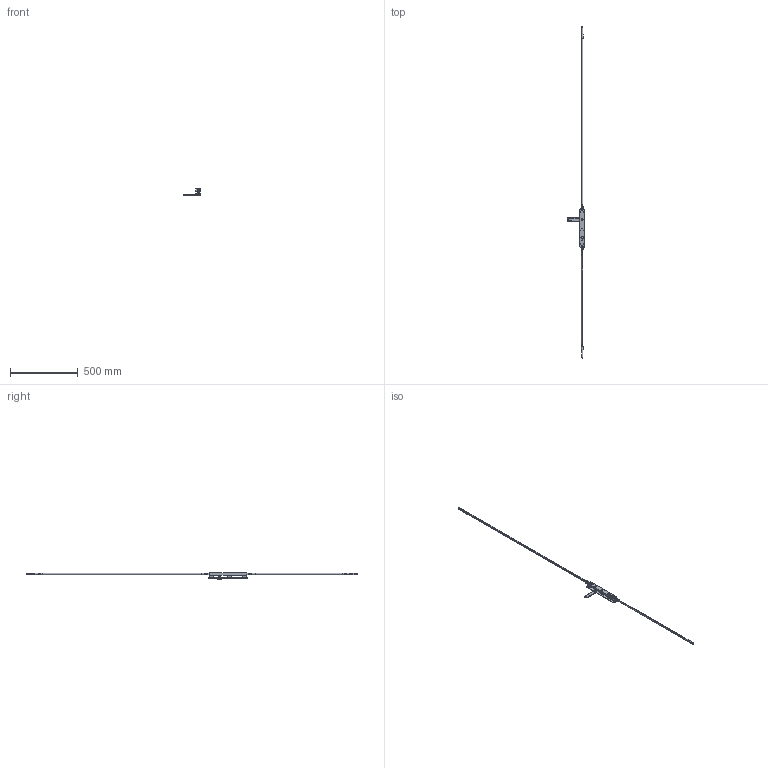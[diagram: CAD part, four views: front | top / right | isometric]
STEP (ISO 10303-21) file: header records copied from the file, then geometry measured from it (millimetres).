
FILE_DESCRIPTION (( 'STEP AP214' ), '1' );
FILE_NAME ('TPL-H-APC-102-B 17Oct2024.STEP', '2024-10-17T04:30:28', ( '' ), ( '' ), 'SwSTEP 2.0', 'SolidWorks 2023', '' );
FILE_SCHEMA (( 'AUTOMOTIVE_DESIGN' ));
Length unit declared in the file: millimetre
Products named in the file (16): Copy of TPL-H-APC-516 04Oct2024^TPL-H-APC-603 16Oct2024; Copy of LKC-585 Rotator body zinc^Copy of TPGen2 handle non-keyed long zinc - simplified_TPL-H-APC-603 16Oct2024; Copy of TPGen2 handle non-keyed long zinc - simplified^TPL-H-APC-603 16Oct2024_Right; Copy of LKC-583 Escutcheon plate unkeyed 285mm long zinc - simplified^Copy of TPGen2 handle non-keyed long zinc - simplified_TPL-H-APC-603 16Oct2024; TPL-H-APC-102-B 17Oct2024; Copy of TPLGen2 push rod - simplified^Copy of TPLGen2 lock body keyed assembly_TPL-H-APC-603 16Oct2024_Female thread M10; Copy of LKC-584 Pivot body zinc - simplified^Copy of TPGen2 handle non-keyed long zinc - simplified_TPL-H-APC-603 16Oct2024; Copy of LKC-586 Spindle square 8mm with M4 hole^Copy of TPGen2 handle non-keyed long zinc - simplified_TPL-H-APC-603 16Oct2024_37mm; Copy of TPL-H-APC-517 04Oct2024^TPL-H-APC-603 16Oct2024; Copy of LKC-505 Swing handle zinc - simplified^Copy of TPGen2 handle non-keyed long zinc - simplified_TPL-H-APC-603 16Oct2024; Copy of LKC-540 Transmission rod aluminium system TPLGen2^TPL-H-APC-603 16Oct2024_2885mm; Copy of LKC-532 Rod connector - simplified^TPL-H-APC-603 16Oct2024; Copy of TPLGen2 lock body keyed^Copy of TPLGen2 lock body keyed assembly_TPL-H-APC-603 16Oct2024_Left; Copy of TPLGen2 lock body keyed assembly^TPL-H-APC-603 16Oct2024_Bolts retracted - left; Copy of LKC-576 Bolt adaptor - simplified^TPL-H-APC-603 16Oct2024; Copy (2) of LKC-540 Transmission rod aluminium system TPLGen2^TPL-H-APC-603 16Oct2024_2885mm
Assembly tree (21 placements, depth 3):
  TPL-H-APC-102-B 17Oct2024
    Copy of TPLGen2 lock body keyed assembly^TPL-H-APC-603 16Oct2024_Bolts retracted - left
      Copy of TPLGen2 lock body keyed^Copy of TPLGen2 lock body keyed assembly_TPL-H-APC-603 16Oct2024_Left
      Copy of TPLGen2 push rod - simplified^Copy of TPLGen2 lock body keyed assembly_TPL-H-APC-603 16Oct2024_Female thread M10  x2
    Copy of TPGen2 handle non-keyed long zinc - simplified^TPL-H-APC-603 16Oct2024_Right
      Copy of LKC-583 Escutcheon plate unkeyed 285mm long zinc - simplified^Copy of TPGen2 handle non-keyed long zinc - simplified_TPL-H-APC-603 16Oct2024
      Copy of LKC-505 Swing handle zinc - simplified^Copy of TPGen2 handle non-keyed long zinc - simplified_TPL-H-APC-603 16Oct2024
      Copy of LKC-585 Rotator body zinc^Copy of TPGen2 handle non-keyed long zinc - simplified_TPL-H-APC-603 16Oct2024
      Copy of LKC-586 Spindle square 8mm with M4 hole^Copy of TPGen2 handle non-keyed long zinc - simplified_TPL-H-APC-603 16Oct2024_37mm
      Copy of LKC-584 Pivot body zinc - simplified^Copy of TPGen2 handle non-keyed long zinc - simplified_TPL-H-APC-603 16Oct2024
    Copy of LKC-532 Rod connector - simplified^TPL-H-APC-603 16Oct2024  x2
    Copy of LKC-540 Transmission rod aluminium system TPLGen2^TPL-H-APC-603 16Oct2024_2885mm
    Copy (2) of LKC-540 Transmission rod aluminium system TPLGen2^TPL-H-APC-603 16Oct2024_2885mm
    Copy of LKC-576 Bolt adaptor - simplified^TPL-H-APC-603 16Oct2024  x2
    Copy of TPL-H-APC-517 04Oct2024^TPL-H-APC-603 16Oct2024  x2
    Copy of TPL-H-APC-516 04Oct2024^TPL-H-APC-603 16Oct2024  x3
Bounding box: 125.62 x 2445.9 x 51.46 mm (x, y, z)
Volume: 330256 mm3; surface area: 229998.8 mm2
Topology: 19 solids, 19 shells, 1304 faces, 3158 edges, 1910 vertices
Faces by surface type: cylinder 408, plane 398, bspline 224, cone 122, torus 119, sphere 33
Entity records: 32059 total; most frequent: CARTESIAN_POINT 12880, ORIENTED_EDGE 4048, DIRECTION 3738, EDGE_CURVE 2024, AXIS2_PLACEMENT_3D 1479, VERTEX_POINT 1231, EDGE_LOOP 957, ADVANCED_FACE 862
